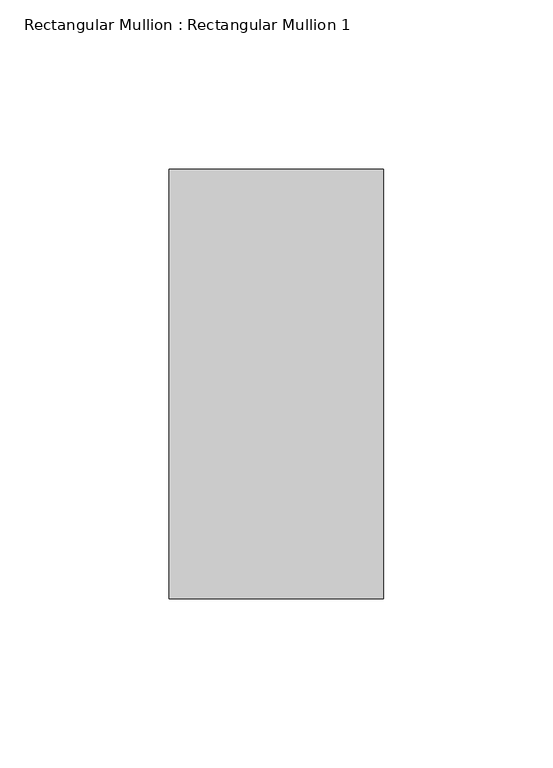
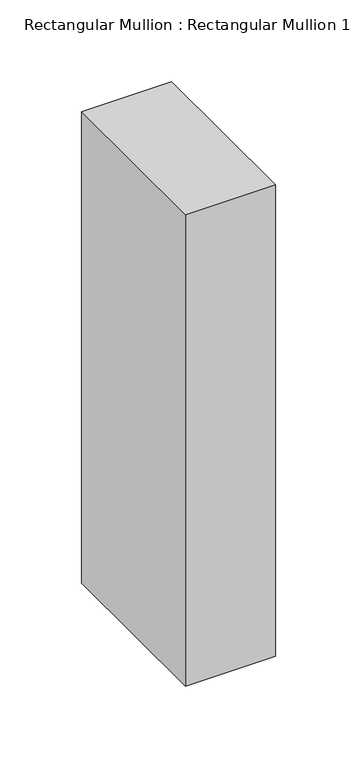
"""IFC4 building model written with IfcOpenShell, lengths in millimetres: member geometry, Rectangular Mullion : Rectangular Mullion 1."""

import ifcopenshell
import ifcopenshell.guid

model = None  # the IFC model being written
_history = None  # IfcOwnerHistory: only IFC2X3 demands one
_inside = {}  # id of a spatial element -> (the spatial element, [elements in it])
_under = {}  # id of a project, library or spatial element -> (it, [spatial elements below it])
_declared = {}  # id of a project -> (the project, [libraries it declares])
_typed = {}  # id of a type object -> (the type object, [elements of that type])
_made_of = {}  # id of a material, layer set ... -> (it, [elements and type objects made of it])


def new_model(schema):
    """Start an empty IFC model of exactly this schema.

    Asked for "IFC4X3", IfcOpenShell would pick the latest addendum, in which some entities
    have other attributes; the version numbers below select the first issue.
    IFC2X3 requires an IfcOwnerHistory on every rooted entity: one is made here for all.
    """
    global model, _history
    if schema == "IFC4X3":
        model = ifcopenshell.file(schema_version=(4, 3, 0, 0))
    else:
        model = ifcopenshell.file(schema=schema)
    _inside.clear()
    _under.clear()
    _declared.clear()
    _typed.clear()
    _made_of.clear()
    _history = None
    if model.schema == "IFC2X3":
        org = make("IfcOrganization", Name="unknown")
        user = make(
            "IfcPersonAndOrganization",
            ThePerson=make("IfcPerson", FamilyName="unknown"),
            TheOrganization=org,
        )
        app = make(
            "IfcApplication",
            ApplicationDeveloper=org,
            Version="unknown",
            ApplicationFullName="unknown",
            ApplicationIdentifier="unknown",
        )
        _history = make(
            "IfcOwnerHistory",
            OwningUser=user,
            OwningApplication=app,
            ChangeAction="ADDED",
            CreationDate=0,
        )
    return model


def make(cls, **values):
    """One entity of the class cls with the attributes given. An attribute that is None is left unset."""
    return model.create_entity(
        cls, **{name: value for name, value in values.items() if value is not None}
    )


def rooted(cls, **values):
    """An entity with a GlobalId (a new one), such as an element, a storey or a relation."""
    return make(cls, GlobalId=ifcopenshell.guid.new(), OwnerHistory=_history, **values)


def si_unit(unit_type, name, prefix=None):
    """IfcSIUnit, for example si_unit("LENGTHUNIT", "METRE", prefix="MILLI")."""
    return make("IfcSIUnit", UnitType=unit_type, Prefix=prefix, Name=name)


def assignment(units):
    """IfcUnitAssignment: the units of a project."""
    return None if units is None else make("IfcUnitAssignment", Units=units)


def point(xyz):
    """IfcCartesianPoint."""
    return None if xyz is None else make("IfcCartesianPoint", Coordinates=xyz)


def direction(xyz):
    """IfcDirection."""
    return None if xyz is None else make("IfcDirection", DirectionRatios=xyz)


def frame(location, z_axis=None, x_axis=None):
    """IfcAxis2Placement3D, a coordinate frame: its origin and axes. An axis left out is left unset."""
    return make(
        "IfcAxis2Placement3D",
        Location=point(location),
        Axis=direction(z_axis),
        RefDirection=direction(x_axis),
    )


def origin():
    """The frame at (0, 0, 0) with its axes left unset."""
    return frame((0.0, 0.0, 0.0))


def place(relative_to, where):
    """IfcLocalPlacement: puts the frame where relative to a parent placement (None: the world)."""
    return make(
        "IfcLocalPlacement", PlacementRelTo=relative_to, RelativePlacement=where
    )


def context(
    kind, dimensions, precision=None, world=None, true_north=None, identifier=None
):
    """IfcGeometricRepresentationContext, for example the 3D "Model" context."""
    return make(
        "IfcGeometricRepresentationContext",
        ContextIdentifier=identifier,
        ContextType=kind,
        CoordinateSpaceDimension=dimensions,
        Precision=precision,
        WorldCoordinateSystem=world,
        TrueNorth=true_north,
    )


def project(units=None, contexts=None):
    """IfcProject with its units and contexts."""
    return rooted(
        "IfcProject",
        Name="project",
        RepresentationContexts=contexts,
        UnitsInContext=assignment(units),
    )


def spatial(cls, under=None, at=None, **own):
    """A site, building, storey or space (cls), placed at a placement, below another one or the project."""
    s = rooted(cls, ObjectPlacement=at, **own)
    if under is not None:
        _under.setdefault(under.id(), (under, []))[1].append(s)
    return s


def polyline(points):
    """IfcPolyline through the points."""
    return make("IfcPolyline", Points=[point(p) for p in points])


def outline(outer, holes=None, kind="AREA"):
    """IfcArbitraryClosedProfileDef: a profile drawn as a closed curve; with holes, ...WithVoids."""
    if holes is None:
        return make("IfcArbitraryClosedProfileDef", ProfileType=kind, OuterCurve=outer)
    return make(
        "IfcArbitraryProfileDefWithVoids",
        ProfileType=kind,
        OuterCurve=outer,
        InnerCurves=holes,
    )


def extrude(swept, where, along, depth):
    """IfcExtrudedAreaSolid: the profile swept, set in the frame where, extruded along a direction by depth."""
    return make(
        "IfcExtrudedAreaSolid",
        SweptArea=swept,
        Position=where,
        ExtrudedDirection=direction(along),
        Depth=depth,
    )


def shape(context_of_items, identifier, shape_type, items):
    """IfcShapeRepresentation: the items that make up one representation, for example the "Body"."""
    return make(
        "IfcShapeRepresentation",
        ContextOfItems=context_of_items,
        RepresentationIdentifier=identifier,
        RepresentationType=shape_type,
        Items=items,
    )


def source(mapping_origin, context_of_items, identifier, shape_type, items):
    """IfcRepresentationMap: a shape defined once, which mapped items show again and again."""
    return make(
        "IfcRepresentationMap",
        MappingOrigin=mapping_origin,
        MappedRepresentation=shape(context_of_items, identifier, shape_type, items),
    )


def transform(
    local_origin,
    x_axis=None,
    y_axis=None,
    z_axis=None,
    scale=None,
    scale2=None,
    scale3=None,
    uniform=True,
):
    """IfcCartesianTransformationOperator3D, or its non-uniform kind. x_axis, y_axis, z_axis: its Axis1, 2, 3."""
    if uniform:
        return make(
            "IfcCartesianTransformationOperator3D",
            Axis1=direction(x_axis),
            Axis2=direction(y_axis),
            LocalOrigin=point(local_origin),
            Scale=scale,
            Axis3=direction(z_axis),
        )
    return make(
        "IfcCartesianTransformationOperator3DnonUniform",
        Axis1=direction(x_axis),
        Axis2=direction(y_axis),
        LocalOrigin=point(local_origin),
        Scale=scale,
        Axis3=direction(z_axis),
        Scale2=scale2,
        Scale3=scale3,
    )


def mapped(mapping_source, mapping_target):
    """IfcMappedItem: shows the shape of a source again, moved by a transform."""
    return make(
        "IfcMappedItem", MappingSource=mapping_source, MappingTarget=mapping_target
    )


def made_of(thing, what):
    """Note that an element or type object is made of a material, layer set ...; save() writes the relation."""
    if what is not None:
        _made_of.setdefault(what.id(), (what, []))[1].append(thing)
    return thing


def element(
    cls,
    number,
    at=None,
    inside=None,
    cuts=None,
    type_object=None,
    material=None,
    context=None,
    identifier="Body",
    shape_type=None,
    held_by="IfcProductDefinitionShape",
    body=None,
    shapes=None,
    **own,
):
    """One element of the class cls, such as IfcWall. Its Tag is "e" and its number.

    at: its placement. inside: the storey or other place that contains it. cuts: it is an
    opening in that element (IfcRelVoidsElement). A single representation is given by context,
    identifier, shape_type and body (its items); several are given by shapes. held_by: the class
    of the entity that holds the representations. save() writes the other relations.
    """
    e = rooted(cls, Tag="e%d" % number, ObjectPlacement=at, **own)
    if body is not None:
        shapes = [shape(context, identifier, shape_type, body)]
    if shapes is not None:
        e.Representation = make(held_by, Representations=shapes)
    if inside is not None:
        _inside.setdefault(inside.id(), (inside, []))[1].append(e)
    if cuts is not None:
        rooted(
            "IfcRelVoidsElement", RelatingBuildingElement=cuts, RelatedOpeningElement=e
        )
    if type_object is not None:
        _typed.setdefault(type_object.id(), (type_object, []))[1].append(e)
    return made_of(e, material)


def aggregate(whole, parts):
    """IfcRelAggregates: a whole, such as a stair, and the parts it consists of."""
    return rooted("IfcRelAggregates", RelatingObject=whole, RelatedObjects=parts)


def save(model, path):
    """Write the relations noted so far, then the file.

    IfcRelAggregates (storeys below a building ...), IfcRelContainedInSpatialStructure (elements
    in a storey), IfcRelDefinesByType, IfcRelAssociatesMaterial and IfcRelDeclares: one each for
    every whole, place, type object, material and project.
    """
    for whole, parts in _under.values():
        aggregate(whole, parts)
    for where, things in _inside.values():
        rooted(
            "IfcRelContainedInSpatialStructure",
            RelatedElements=things,
            RelatingStructure=where,
        )
    for kind, things in _typed.values():
        rooted("IfcRelDefinesByType", RelatedObjects=things, RelatingType=kind)
    for what, things in _made_of.values():
        rooted("IfcRelAssociatesMaterial", RelatedObjects=things, RelatingMaterial=what)
    for by, libraries in _declared.values():
        rooted("IfcRelDeclares", RelatingContext=by, RelatedDefinitions=libraries)
    model.write(path)


def rectangular_mullion_rectangular_mullion_1_122ecc36(model_context):
    return source(origin(), model_context, "Body", "SweptSolid", [
        extrude(outline(polyline([(0.0, 63.5), (0.0, -63.5), (-63.5, -63.5), (-63.5, 63.5), (0.0, 63.5)])), frame((0.0, 0.0, -351.9527241), z_axis=(0.0, 0.0, 1.0), x_axis=(1.0, 0.0, 0.0)), (0.0, 0.0, 1.0), 351.9527241),
    ])


if __name__ == "__main__":
    model = new_model("IFC4")
    model_context = context("Model", 3, world=origin())
    ifc_project = project(units=[si_unit("LENGTHUNIT", "METRE", prefix="MILLI")], contexts=[model_context])
    site = spatial("IfcSite", under=ifc_project)
    building = spatial("IfcBuilding", under=site)
    placement = place(None, origin())
    rectangular_mullion_rectangular_mullion_1_shape = rectangular_mullion_rectangular_mullion_1_122ecc36(model_context)
    element("IfcMember", 1, ObjectType="Rectangular Mullion : Rectangular Mullion 1", at=placement, inside=building, context=model_context, shape_type="MappedRepresentation", body=[
        mapped(rectangular_mullion_rectangular_mullion_1_shape, transform((0.0, 0.0, 0.0), x_axis=(1.0, 0.0, 0.0), y_axis=(0.0, 1.0, 0.0), z_axis=(0.0, 0.0, 1.0))),
    ])
    save(model, "model.ifc")
